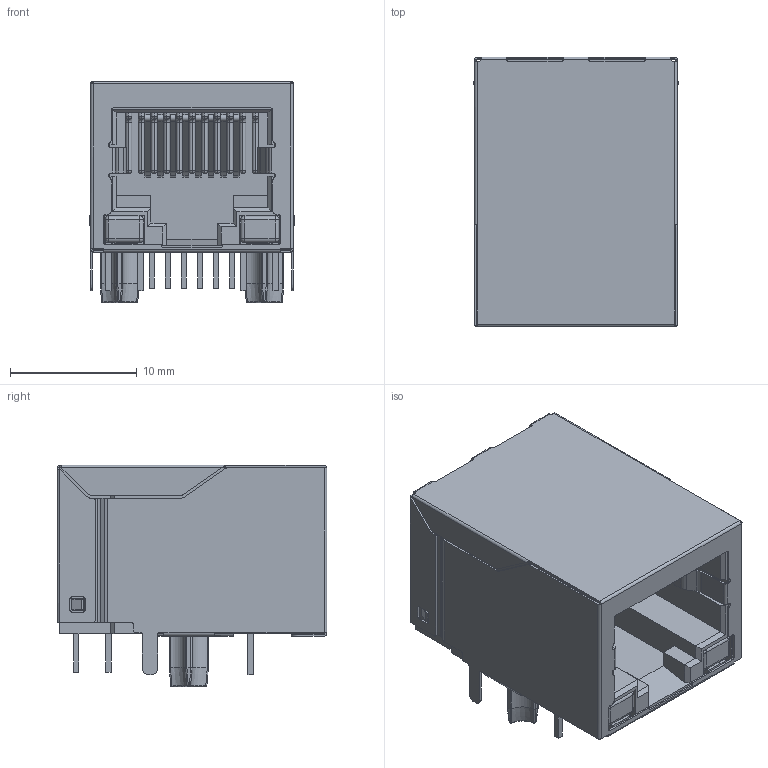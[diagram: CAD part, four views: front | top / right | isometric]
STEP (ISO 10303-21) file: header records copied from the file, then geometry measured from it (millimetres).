
FILE_DESCRIPTION (( 'STEP AP214' ), '1' );
FILE_NAME ('RJ45-TH_L21.3-W16.0-H13.5.step', '2022-12-01T09:46:55', ( '' ), ( '' ), 'SwSTEP 2.0', 'SolidWorks 2020', '' );
FILE_SCHEMA (( 'AUTOMOTIVE_DESIGN' ));
Length unit declared in the file: millimetre
Products named in the file (1): RJ45-TH_L21.3-W16.0-H13.5
Bounding box: 16.14 x 21.3 x 17.5 mm (x, y, z)
Volume: 3175 mm3; surface area: 5386.1 mm2
Topology: 4 solids, 4 shells, 1136 faces, 3052 edges, 1908 vertices
Faces by surface type: plane 539, cylinder 353, bspline 118, sphere 76, torus 42, cone 8
Entity records: 48906 total; most frequent: CARTESIAN_POINT 8633, ORIENTED_EDGE 5992, DIRECTION 5505, EDGE_CURVE 2996, VERTEX_POINT 1908, LINE 1881, VECTOR 1881, AXIS2_PLACEMENT_3D 1812
